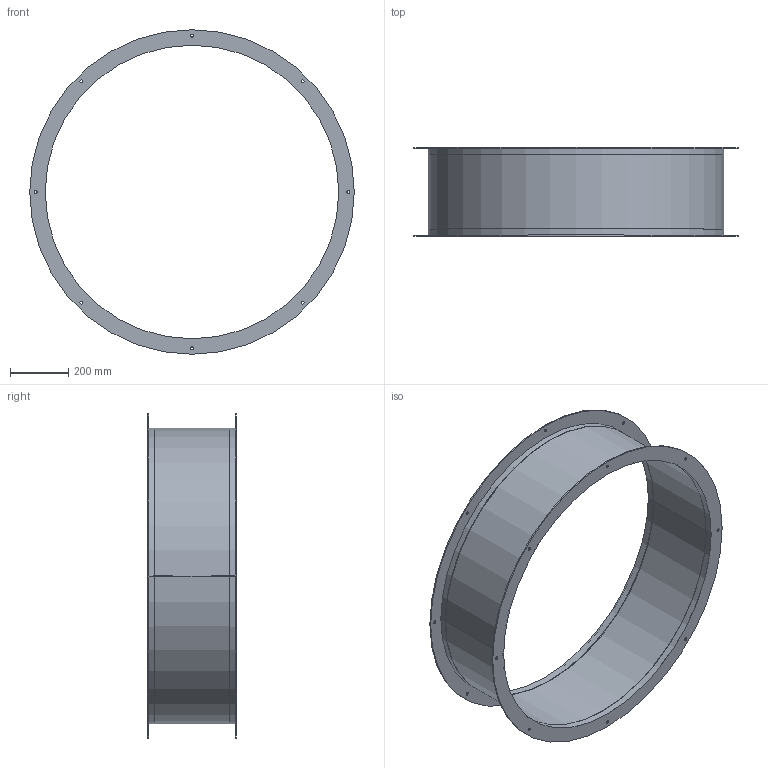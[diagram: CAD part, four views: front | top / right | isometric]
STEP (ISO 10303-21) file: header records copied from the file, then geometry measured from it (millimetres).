
FILE_DESCRIPTION(('STEP AP214'),'1');
FILE_NAME('accessory_5138908700.stp','2017-10-09T08:00:41',('TraceParts'),('TraceParts S.A.'),'Spatial InterOp 3D',' ',' ');
FILE_SCHEMA(('automotive_design'));
Length unit declared in the file: millimetre
Products named in the file (1): accessory_5138908700
Bounding box: 1110 x 304 x 1110 mm (x, y, z)
Volume: 3543641.1 mm3; surface area: 2618643.1 mm2
Topology: 1 solids, 1 shells, 56 faces, 144 edges, 96 vertices
Faces by surface type: cylinder 48, plane 8
Entity records: 2296 total; most frequent: DIRECTION 354, CARTESIAN_POINT 297, ORIENTED_EDGE 288, AXIS2_PLACEMENT_3D 153, EDGE_CURVE 144, EDGE_LOOP 96, VERTEX_POINT 96, CIRCLE 96
